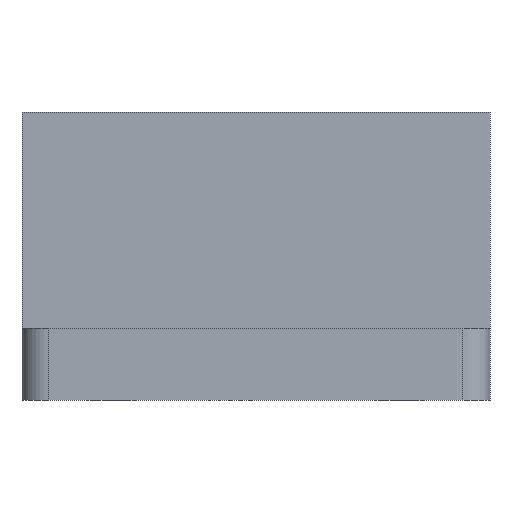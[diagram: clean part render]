
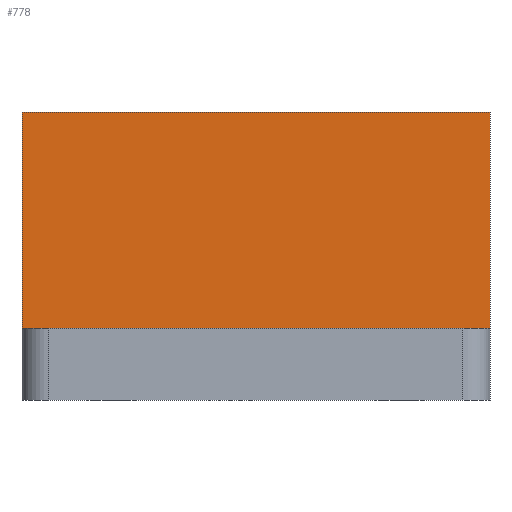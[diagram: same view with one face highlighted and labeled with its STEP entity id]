
A CAD part, left-side view. The second image highlights one B-rep face of the part: STEP entity #778.
In plain terms, the highlighted planar face has unit normal (-1, 0, 0).
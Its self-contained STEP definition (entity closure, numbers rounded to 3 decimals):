
#44 = PLANE('',#45);
#45 = AXIS2_PLACEMENT_3D('',#46,#47,#48);
#46 = CARTESIAN_POINT('',(-15.,-26.,8.));
#47 = DIRECTION('',(0.,0.,1.));
#48 = DIRECTION('',(1.,0.,0.));
#167 = VERTEX_POINT('',#168);
#168 = CARTESIAN_POINT('',(9.,-26.,8.));
#182 = PLANE('',#183);
#183 = AXIS2_PLACEMENT_3D('',#184,#185,#186);
#184 = CARTESIAN_POINT('',(-15.,-26.,0.));
#185 = DIRECTION('',(0.,1.,0.));
#186 = DIRECTION('',(0.,0.,1.));
#194 = EDGE_CURVE('',#167,#195,#197,.T.);
#195 = VERTEX_POINT('',#196);
#196 = CARTESIAN_POINT('',(9.,26.,8.));
#197 = SURFACE_CURVE('',#198,(#202,#209),.PCURVE_S1.);
#198 = LINE('',#199,#200);
#199 = CARTESIAN_POINT('',(9.,-26.,8.));
#200 = VECTOR('',#201,1.);
#201 = DIRECTION('',(0.,1.,0.));
#202 = PCURVE('',#44,#203);
#203 = DEFINITIONAL_REPRESENTATION('',(#204),#208);
#204 = LINE('',#205,#206);
#205 = CARTESIAN_POINT('',(24.,0.));
#206 = VECTOR('',#207,1.);
#207 = DIRECTION('',(0.,1.));
#208 = ( GEOMETRIC_REPRESENTATION_CONTEXT(2) 
PARAMETRIC_REPRESENTATION_CONTEXT() REPRESENTATION_CONTEXT('2D SPACE',''
  ) );
#209 = PCURVE('',#210,#215);
#210 = PLANE('',#211);
#211 = AXIS2_PLACEMENT_3D('',#212,#213,#214);
#212 = CARTESIAN_POINT('',(9.,-26.,8.));
#213 = DIRECTION('',(1.,0.,0.));
#214 = DIRECTION('',(0.,0.,1.));
#215 = DEFINITIONAL_REPRESENTATION('',(#216),#220);
#216 = LINE('',#217,#218);
#217 = CARTESIAN_POINT('',(0.,0.));
#218 = VECTOR('',#219,1.);
#219 = DIRECTION('',(0.,-1.));
#220 = ( GEOMETRIC_REPRESENTATION_CONTEXT(2) 
PARAMETRIC_REPRESENTATION_CONTEXT() REPRESENTATION_CONTEXT('2D SPACE',''
  ) );
#238 = PLANE('',#239);
#239 = AXIS2_PLACEMENT_3D('',#240,#241,#242);
#240 = CARTESIAN_POINT('',(-15.,26.,0.));
#241 = DIRECTION('',(0.,1.,0.));
#242 = DIRECTION('',(0.,0.,1.));
#656 = EDGE_CURVE('',#195,#657,#659,.T.);
#657 = VERTEX_POINT('',#658);
#658 = CARTESIAN_POINT('',(9.,26.,32.));
#659 = SURFACE_CURVE('',#660,(#664,#671),.PCURVE_S1.);
#660 = LINE('',#661,#662);
#661 = CARTESIAN_POINT('',(9.,26.,8.));
#662 = VECTOR('',#663,1.);
#663 = DIRECTION('',(0.,0.,1.));
#664 = PCURVE('',#238,#665);
#665 = DEFINITIONAL_REPRESENTATION('',(#666),#670);
#666 = LINE('',#667,#668);
#667 = CARTESIAN_POINT('',(8.,24.));
#668 = VECTOR('',#669,1.);
#669 = DIRECTION('',(1.,0.));
#670 = ( GEOMETRIC_REPRESENTATION_CONTEXT(2) 
PARAMETRIC_REPRESENTATION_CONTEXT() REPRESENTATION_CONTEXT('2D SPACE',''
  ) );
#671 = PCURVE('',#210,#672);
#672 = DEFINITIONAL_REPRESENTATION('',(#673),#677);
#673 = LINE('',#674,#675);
#674 = CARTESIAN_POINT('',(0.,-52.));
#675 = VECTOR('',#676,1.);
#676 = DIRECTION('',(1.,0.));
#677 = ( GEOMETRIC_REPRESENTATION_CONTEXT(2) 
PARAMETRIC_REPRESENTATION_CONTEXT() REPRESENTATION_CONTEXT('2D SPACE',''
  ) );
#695 = PLANE('',#696);
#696 = AXIS2_PLACEMENT_3D('',#697,#698,#699);
#697 = CARTESIAN_POINT('',(9.,-26.,32.));
#698 = DIRECTION('',(0.,0.,1.));
#699 = DIRECTION('',(1.,0.,0.));
#778 = ADVANCED_FACE('',(#779),#210,.F.);
#779 = FACE_BOUND('',#780,.F.);
#780 = EDGE_LOOP('',(#781,#804,#805,#806));
#781 = ORIENTED_EDGE('',*,*,#782,.F.);
#782 = EDGE_CURVE('',#167,#783,#785,.T.);
#783 = VERTEX_POINT('',#784);
#784 = CARTESIAN_POINT('',(9.,-26.,32.));
#785 = SURFACE_CURVE('',#786,(#790,#797),.PCURVE_S1.);
#786 = LINE('',#787,#788);
#787 = CARTESIAN_POINT('',(9.,-26.,8.));
#788 = VECTOR('',#789,1.);
#789 = DIRECTION('',(0.,0.,1.));
#790 = PCURVE('',#210,#791);
#791 = DEFINITIONAL_REPRESENTATION('',(#792),#796);
#792 = LINE('',#793,#794);
#793 = CARTESIAN_POINT('',(0.,0.));
#794 = VECTOR('',#795,1.);
#795 = DIRECTION('',(1.,0.));
#796 = ( GEOMETRIC_REPRESENTATION_CONTEXT(2) 
PARAMETRIC_REPRESENTATION_CONTEXT() REPRESENTATION_CONTEXT('2D SPACE',''
  ) );
#797 = PCURVE('',#182,#798);
#798 = DEFINITIONAL_REPRESENTATION('',(#799),#803);
#799 = LINE('',#800,#801);
#800 = CARTESIAN_POINT('',(8.,24.));
#801 = VECTOR('',#802,1.);
#802 = DIRECTION('',(1.,0.));
#803 = ( GEOMETRIC_REPRESENTATION_CONTEXT(2) 
PARAMETRIC_REPRESENTATION_CONTEXT() REPRESENTATION_CONTEXT('2D SPACE',''
  ) );
#804 = ORIENTED_EDGE('',*,*,#194,.T.);
#805 = ORIENTED_EDGE('',*,*,#656,.T.);
#806 = ORIENTED_EDGE('',*,*,#807,.F.);
#807 = EDGE_CURVE('',#783,#657,#808,.T.);
#808 = SURFACE_CURVE('',#809,(#813,#820),.PCURVE_S1.);
#809 = LINE('',#810,#811);
#810 = CARTESIAN_POINT('',(9.,-26.,32.));
#811 = VECTOR('',#812,1.);
#812 = DIRECTION('',(0.,1.,0.));
#813 = PCURVE('',#210,#814);
#814 = DEFINITIONAL_REPRESENTATION('',(#815),#819);
#815 = LINE('',#816,#817);
#816 = CARTESIAN_POINT('',(24.,0.));
#817 = VECTOR('',#818,1.);
#818 = DIRECTION('',(0.,-1.));
#819 = ( GEOMETRIC_REPRESENTATION_CONTEXT(2) 
PARAMETRIC_REPRESENTATION_CONTEXT() REPRESENTATION_CONTEXT('2D SPACE',''
  ) );
#820 = PCURVE('',#695,#821);
#821 = DEFINITIONAL_REPRESENTATION('',(#822),#826);
#822 = LINE('',#823,#824);
#823 = CARTESIAN_POINT('',(0.,0.));
#824 = VECTOR('',#825,1.);
#825 = DIRECTION('',(0.,1.));
#826 = ( GEOMETRIC_REPRESENTATION_CONTEXT(2) 
PARAMETRIC_REPRESENTATION_CONTEXT() REPRESENTATION_CONTEXT('2D SPACE',''
  ) );
